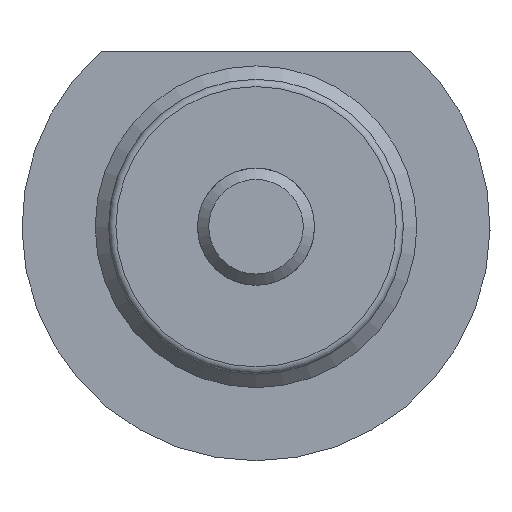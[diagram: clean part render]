
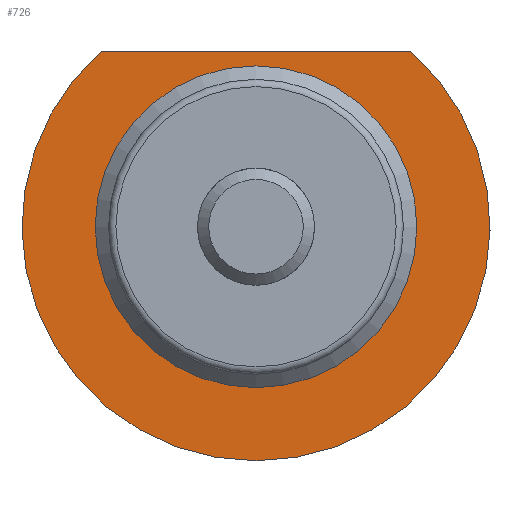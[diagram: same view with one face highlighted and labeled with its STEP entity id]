
A CAD part, left-side view. The second image highlights one B-rep face of the part: STEP entity #726.
In plain terms, the highlighted planar face has unit normal (-1, 0, 0).
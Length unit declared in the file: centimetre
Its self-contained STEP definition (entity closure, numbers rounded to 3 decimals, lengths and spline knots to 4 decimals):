
#46=PLANE($,#813);
#77=FACE_BOUND($,#204,.T.);
#126=FACE_OUTER_BOUND($,#203,.T.);
#203=EDGE_LOOP($,(#582,#583));
#204=EDGE_LOOP($,(#584));
#283=CIRCLE($,#812,1.1);
#284=CIRCLE($,#814,1.6);
#320=LINE($,#1279,#344);
#344=VECTOR($,#990,2.1166);
#390=VERTEX_POINT($,#1273);
#391=VERTEX_POINT($,#1276);
#392=VERTEX_POINT($,#1277);
#464=EDGE_CURVE($,#390,#390,#283,.T.);
#465=EDGE_CURVE($,#391,#392,#284,.T.);
#466=EDGE_CURVE($,#391,#392,#320,.T.);
#582=ORIENTED_EDGE($,*,*,#465,.F.);
#583=ORIENTED_EDGE($,*,*,#466,.T.);
#584=ORIENTED_EDGE($,*,*,#464,.T.);
#726=ADVANCED_FACE($,(#126,#77),#46,.F.);
#812=AXIS2_PLACEMENT_3D($,#1274,#984,#985);
#813=AXIS2_PLACEMENT_3D($,#1275,#986,#987);
#814=AXIS2_PLACEMENT_3D($,#1278,#988,#989);
#984=DIRECTION('center_axis',(1.,0.,0.));
#985=DIRECTION('ref_axis',(0.,0.,
-1.));
#986=DIRECTION('center_axis',(1.,0.,0.));
#987=DIRECTION('ref_axis',(0.,0.,-1.));
#988=DIRECTION('center_axis',(1.,0.,0.));
#989=DIRECTION('ref_axis',(0.,0.,
-1.));
#990=DIRECTION($,(0.,1.,0.));
#1273=CARTESIAN_POINT('',(1.,0.,-1.1));
#1274=CARTESIAN_POINT('Origin',(1.,0.,0.));
#1275=CARTESIAN_POINT('Origin',(1.,1.1,0.));
#1276=CARTESIAN_POINT('',(1.,-1.0583,1.2));
#1277=CARTESIAN_POINT('',(1.,1.0583,1.2));
#1278=CARTESIAN_POINT('Origin',(1.,0.,0.));
#1279=CARTESIAN_POINT($,(1.,-4.32,1.2));
